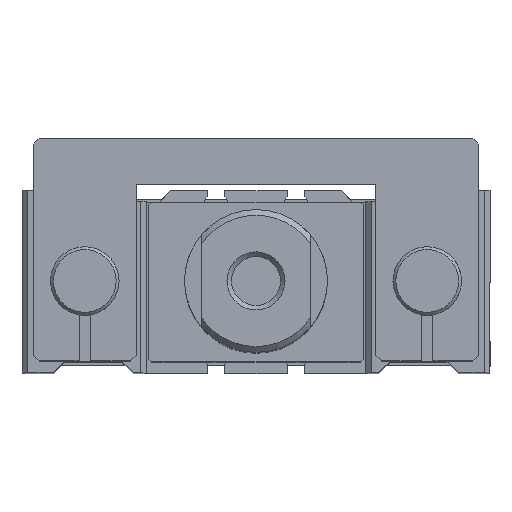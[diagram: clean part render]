
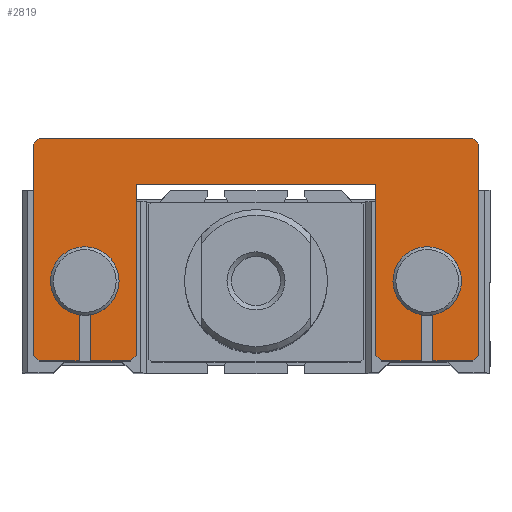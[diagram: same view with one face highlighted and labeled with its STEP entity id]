
A CAD part, top view. The second image highlights one B-rep face of the part: STEP entity #2819.
In plain terms, the highlighted planar face has unit normal (0, 0, 1).
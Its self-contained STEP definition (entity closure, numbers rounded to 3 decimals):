
#291=CARTESIAN_POINT('',(-29.0,-5.916,129.0));
#292=VERTEX_POINT('',#291);
#293=CARTESIAN_POINT('',(-31.0,-5.916,129.0));
#294=VERTEX_POINT('',#293);
#295=CARTESIAN_POINT('',(-30.0,0.0,129.0));
#296=DIRECTION('',(0.0,0.0,1.0));
#297=DIRECTION('',(0.0,-1.0,0.0));
#298=AXIS2_PLACEMENT_3D('',#295,#296,#297);
#299=CIRCLE('',#298,6.);
#300=EDGE_CURVE('',#292,#294,#299,.T.);
#378=CARTESIAN_POINT('',(31.,-5.916,129.0));
#379=VERTEX_POINT('',#378);
#380=CARTESIAN_POINT('',(29.,-5.916,129.0));
#381=VERTEX_POINT('',#380);
#382=CARTESIAN_POINT('',(30.0,0.0,129.0));
#383=DIRECTION('',(0.0,0.0,1.0));
#384=DIRECTION('',(0.0,-1.0,0.0));
#385=AXIS2_PLACEMENT_3D('',#382,#383,#384);
#386=CIRCLE('',#385,6.);
#387=EDGE_CURVE('',#379,#381,#386,.T.);
#2365=CARTESIAN_POINT('',(-39.0,24.,129.0));
#2366=VERTEX_POINT('',#2365);
#2367=CARTESIAN_POINT('',(-38.0,25.,129.0));
#2368=VERTEX_POINT('',#2367);
#2369=CARTESIAN_POINT('',(-39.0,24.,129.0));
#2370=DIRECTION('',(0.707,0.707,0.0));
#2371=VECTOR('',#2370,1.414);
#2372=LINE('',#2369,#2371);
#2373=EDGE_CURVE('',#2366,#2368,#2372,.T.);
#2429=CARTESIAN_POINT('',(-39.0,-13.,129.0));
#2430=VERTEX_POINT('',#2429);
#2437=CARTESIAN_POINT('',(-39.0,24.,129.0));
#2438=DIRECTION('',(0.0,-1.0,0.0));
#2439=VECTOR('',#2438,37.0);
#2440=LINE('',#2437,#2439);
#2441=EDGE_CURVE('',#2366,#2430,#2440,.T.);
#2622=CARTESIAN_POINT('',(38.0,25.,129.0));
#2623=VERTEX_POINT('',#2622);
#2630=CARTESIAN_POINT('',(39.0,24.,129.0));
#2631=VERTEX_POINT('',#2630);
#2632=CARTESIAN_POINT('',(38.0,25.,129.0));
#2633=DIRECTION('',(0.707,-0.707,0.0));
#2634=VECTOR('',#2633,1.414);
#2635=LINE('',#2632,#2634);
#2636=EDGE_CURVE('',#2623,#2631,#2635,.T.);
#2653=CARTESIAN_POINT('',(39.0,-13.,129.0));
#2654=VERTEX_POINT('',#2653);
#2655=CARTESIAN_POINT('',(39.0,-13.,129.0));
#2656=DIRECTION('',(0.0,1.0,0.0));
#2657=VECTOR('',#2656,37.0);
#2658=LINE('',#2655,#2657);
#2659=EDGE_CURVE('',#2654,#2631,#2658,.T.);
#2686=CARTESIAN_POINT('',(0.0,-14.,129.0));
#2687=DIRECTION('',(0.0,0.0,1.0));
#2688=DIRECTION('',(1.0,0.0,0.0));
#2689=AXIS2_PLACEMENT_3D('',#2686,#2687,#2688);
#2690=PLANE('',#2689);
#2691=ORIENTED_EDGE('',*,*,#2373,.F.);
#2692=ORIENTED_EDGE('',*,*,#2441,.T.);
#2693=CARTESIAN_POINT('',(-38.0,-14.,129.0));
#2694=VERTEX_POINT('',#2693);
#2695=CARTESIAN_POINT('',(-38.0,-14.,129.0));
#2696=DIRECTION('',(-0.707,0.707,0.0));
#2697=VECTOR('',#2696,1.414);
#2698=LINE('',#2695,#2697);
#2699=EDGE_CURVE('',#2694,#2430,#2698,.T.);
#2700=ORIENTED_EDGE('',*,*,#2699,.F.);
#2701=CARTESIAN_POINT('',(-31.0,-14.,129.0));
#2702=VERTEX_POINT('',#2701);
#2703=CARTESIAN_POINT('',(-38.0,-14.,129.0));
#2704=DIRECTION('',(1.0,0.0,0.0));
#2705=VECTOR('',#2704,7.0);
#2706=LINE('',#2703,#2705);
#2707=EDGE_CURVE('',#2694,#2702,#2706,.T.);
#2708=ORIENTED_EDGE('',*,*,#2707,.T.);
#2709=CARTESIAN_POINT('',(-31.0,-14.,129.0));
#2710=DIRECTION('',(0.0,1.0,0.0));
#2711=VECTOR('',#2710,8.084);
#2712=LINE('',#2709,#2711);
#2713=EDGE_CURVE('',#2702,#294,#2712,.T.);
#2714=ORIENTED_EDGE('',*,*,#2713,.T.);
#2715=ORIENTED_EDGE('',*,*,#300,.F.);
#2716=CARTESIAN_POINT('',(-29.0,-14.,129.0));
#2717=VERTEX_POINT('',#2716);
#2718=CARTESIAN_POINT('',(-29.0,-5.916,129.0));
#2719=DIRECTION('',(0.0,-1.0,0.0));
#2720=VECTOR('',#2719,8.084);
#2721=LINE('',#2718,#2720);
#2722=EDGE_CURVE('',#292,#2717,#2721,.T.);
#2723=ORIENTED_EDGE('',*,*,#2722,.T.);
#2724=CARTESIAN_POINT('',(-22.0,-14.,129.0));
#2725=VERTEX_POINT('',#2724);
#2726=CARTESIAN_POINT('',(-29.0,-14.,129.0));
#2727=DIRECTION('',(1.0,0.0,0.0));
#2728=VECTOR('',#2727,7.0);
#2729=LINE('',#2726,#2728);
#2730=EDGE_CURVE('',#2717,#2725,#2729,.T.);
#2731=ORIENTED_EDGE('',*,*,#2730,.T.);
#2732=CARTESIAN_POINT('',(-21.0,-13.,129.0));
#2733=VERTEX_POINT('',#2732);
#2734=CARTESIAN_POINT('',(-21.0,-13.,129.0));
#2735=DIRECTION('',(-0.707,-0.707,0.0));
#2736=VECTOR('',#2735,1.414);
#2737=LINE('',#2734,#2736);
#2738=EDGE_CURVE('',#2733,#2725,#2737,.T.);
#2739=ORIENTED_EDGE('',*,*,#2738,.F.);
#2740=CARTESIAN_POINT('',(-21.0,17.,129.0));
#2741=VERTEX_POINT('',#2740);
#2742=CARTESIAN_POINT('',(-21.0,-13.,129.0));
#2743=DIRECTION('',(0.0,1.0,0.0));
#2744=VECTOR('',#2743,30.);
#2745=LINE('',#2742,#2744);
#2746=EDGE_CURVE('',#2733,#2741,#2745,.T.);
#2747=ORIENTED_EDGE('',*,*,#2746,.T.);
#2748=CARTESIAN_POINT('',(21.0,17.,129.0));
#2749=VERTEX_POINT('',#2748);
#2750=CARTESIAN_POINT('',(-21.0,17.,129.0));
#2751=DIRECTION('',(1.0,0.0,0.0));
#2752=VECTOR('',#2751,42.0);
#2753=LINE('',#2750,#2752);
#2754=EDGE_CURVE('',#2741,#2749,#2753,.T.);
#2755=ORIENTED_EDGE('',*,*,#2754,.T.);
#2756=CARTESIAN_POINT('',(21.0,-13.,129.0));
#2757=VERTEX_POINT('',#2756);
#2758=CARTESIAN_POINT('',(21.0,17.,129.0));
#2759=DIRECTION('',(0.0,-1.0,0.0));
#2760=VECTOR('',#2759,30.);
#2761=LINE('',#2758,#2760);
#2762=EDGE_CURVE('',#2749,#2757,#2761,.T.);
#2763=ORIENTED_EDGE('',*,*,#2762,.T.);
#2764=CARTESIAN_POINT('',(22.0,-14.,129.0));
#2765=VERTEX_POINT('',#2764);
#2766=CARTESIAN_POINT('',(22.0,-14.,129.0));
#2767=DIRECTION('',(-0.707,0.707,0.0));
#2768=VECTOR('',#2767,1.414);
#2769=LINE('',#2766,#2768);
#2770=EDGE_CURVE('',#2765,#2757,#2769,.T.);
#2771=ORIENTED_EDGE('',*,*,#2770,.F.);
#2772=CARTESIAN_POINT('',(29.,-14.,129.0));
#2773=VERTEX_POINT('',#2772);
#2774=CARTESIAN_POINT('',(22.0,-14.,129.0));
#2775=DIRECTION('',(1.0,0.0,0.0));
#2776=VECTOR('',#2775,7.);
#2777=LINE('',#2774,#2776);
#2778=EDGE_CURVE('',#2765,#2773,#2777,.T.);
#2779=ORIENTED_EDGE('',*,*,#2778,.T.);
#2780=CARTESIAN_POINT('',(29.,-14.,129.0));
#2781=DIRECTION('',(0.0,1.0,0.0));
#2782=VECTOR('',#2781,8.084);
#2783=LINE('',#2780,#2782);
#2784=EDGE_CURVE('',#2773,#381,#2783,.T.);
#2785=ORIENTED_EDGE('',*,*,#2784,.T.);
#2786=ORIENTED_EDGE('',*,*,#387,.F.);
#2787=CARTESIAN_POINT('',(31.,-14.,129.0));
#2788=VERTEX_POINT('',#2787);
#2789=CARTESIAN_POINT('',(31.,-5.916,129.0));
#2790=DIRECTION('',(0.0,-1.0,0.0));
#2791=VECTOR('',#2790,8.084);
#2792=LINE('',#2789,#2791);
#2793=EDGE_CURVE('',#379,#2788,#2792,.T.);
#2794=ORIENTED_EDGE('',*,*,#2793,.T.);
#2795=CARTESIAN_POINT('',(38.0,-14.,129.0));
#2796=VERTEX_POINT('',#2795);
#2797=CARTESIAN_POINT('',(31.,-14.,129.0));
#2798=DIRECTION('',(1.0,0.0,0.0));
#2799=VECTOR('',#2798,7.);
#2800=LINE('',#2797,#2799);
#2801=EDGE_CURVE('',#2788,#2796,#2800,.T.);
#2802=ORIENTED_EDGE('',*,*,#2801,.T.);
#2803=CARTESIAN_POINT('',(39.0,-13.,129.0));
#2804=DIRECTION('',(-0.707,-0.707,0.0));
#2805=VECTOR('',#2804,1.414);
#2806=LINE('',#2803,#2805);
#2807=EDGE_CURVE('',#2654,#2796,#2806,.T.);
#2808=ORIENTED_EDGE('',*,*,#2807,.F.);
#2809=ORIENTED_EDGE('',*,*,#2659,.T.);
#2810=ORIENTED_EDGE('',*,*,#2636,.F.);
#2811=CARTESIAN_POINT('',(-38.0,25.,129.0));
#2812=DIRECTION('',(1.0,0.0,0.0));
#2813=VECTOR('',#2812,76.0);
#2814=LINE('',#2811,#2813);
#2815=EDGE_CURVE('',#2368,#2623,#2814,.T.);
#2816=ORIENTED_EDGE('',*,*,#2815,.F.);
#2817=EDGE_LOOP('',(#2691,#2692,#2700,#2708,#2714,#2715,#2723,#2731,#2739,#2747,#2755,#2763,#2771,#2779,#2785,#2786,#2794,#2802,#2808,#2809,#2810,#2816));
#2818=FACE_OUTER_BOUND('',#2817,.T.);
#2819=ADVANCED_FACE('',(#2818),#2690,.T.);
